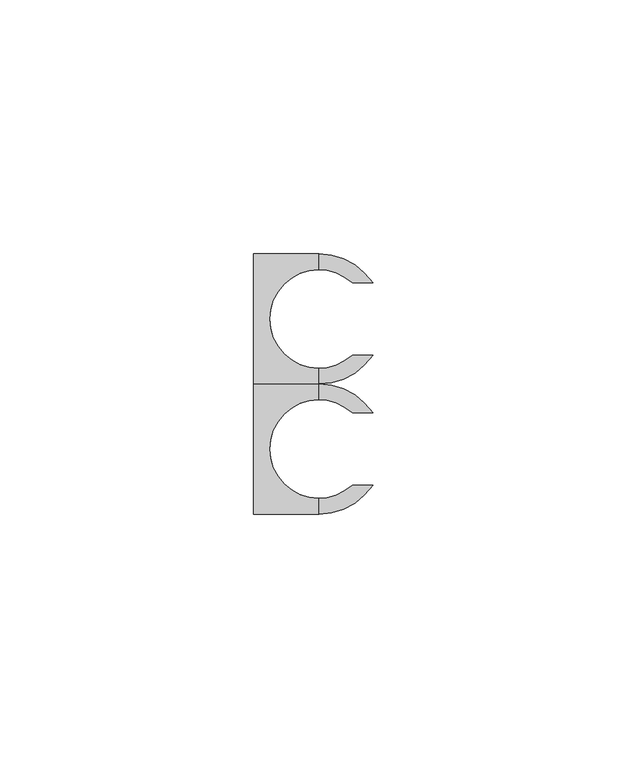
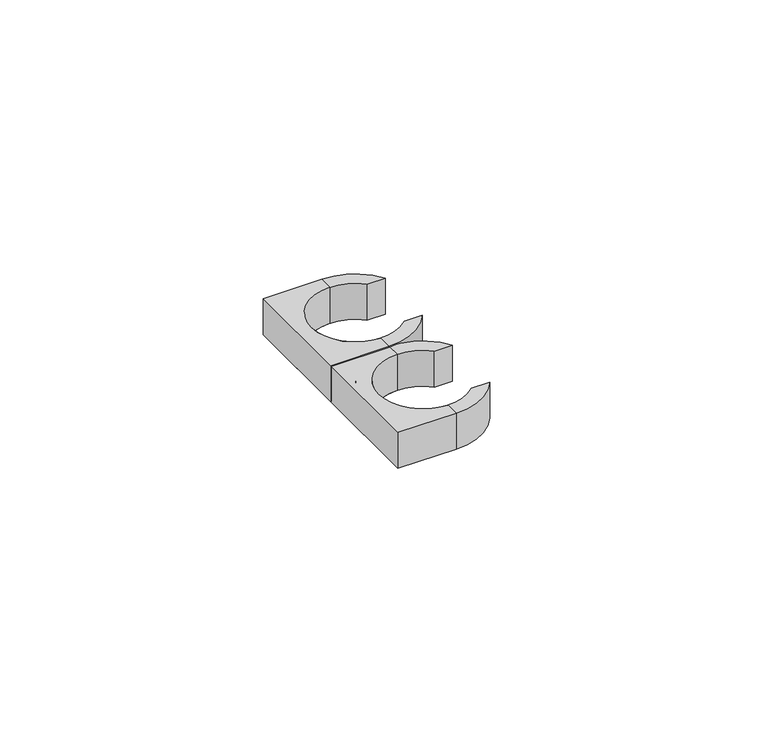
"""IFC4 building model written with IfcOpenShell, lengths in millimetres: valve geometry, EGB_VASEN_ PPR_Abrazadera doble : Abrazadera doble."""

from ifc_helpers import new_model, si_unit, point, frame_2d, origin, origin_with_axes, origin_2d, place, context, project, spatial, polyline, circle_curve, trimmed, segment, composite_curve, outline, extrude, source, transform, mapped, element, save


def valve_6dc34633(model_context):
    return source(origin(), model_context, "Body", "SweptSolid", [
        extrude(outline(composite_curve([segment(polyline([(0.0, 12.8), (-12.8, 12.8), (-12.8, 38.4), (0.0, 38.4), (0.0, 35.3)]), True, "CONTINUOUS"), segment(trimmed(circle_curve(frame_2d((0.0, 25.6)), 9.7), [point((0.0, 35.3))], [point((-9.7, 25.6))], True, "CARTESIAN"), True, "CONTINUOUS"), segment(trimmed(circle_curve(frame_2d((0.0, 25.6)), 9.7), [point((-9.7, 25.6))], [point((0.0, 15.9))], True, "CARTESIAN"), True, "CONTINUOUS"), segment(polyline([(0.0, 15.9), (0.0, 12.8)]), True, "CONTINUOUS")], self_intersect=False)), origin_with_axes(), (0.0, 0.0, 1.0), 8.35),
        extrude(outline(composite_curve([segment(trimmed(circle_curve(frame_2d((0.0, 25.6)), 12.8), [point((-12.8, 25.6))], [point((10.6503521, 32.7))], False, "CARTESIAN"), True, "CONTINUOUS"), segment(polyline([(10.6503521, 32.7), (6.6090847, 32.7)]), True, "CONTINUOUS"), segment(trimmed(circle_curve(frame_2d((0.0, 25.6)), 9.7), [point((6.6090847, 32.7))], [point((-9.7, 25.6))], True, "CARTESIAN"), True, "CONTINUOUS"), segment(trimmed(circle_curve(frame_2d((0.0, 25.6)), 9.7), [point((-9.7, 25.6))], [point((6.6090847, 18.5))], True, "CARTESIAN"), True, "CONTINUOUS"), segment(polyline([(6.6090847, 18.5), (10.6503521, 18.5)]), True, "CONTINUOUS"), segment(trimmed(circle_curve(frame_2d((0.0, 25.6)), 12.8), [point((10.6503521, 18.5))], [point((-12.8, 25.6))], False, "CARTESIAN"), True, "CONTINUOUS")], self_intersect=False)), origin_with_axes(), (0.0, 0.0, 1.0), 8.35),
        extrude(outline(composite_curve([segment(polyline([(0.0, -12.8), (-12.8, -12.8), (-12.8, 12.8), (0.0, 12.8), (0.0, 9.7)]), True, "CONTINUOUS"), segment(trimmed(circle_curve(origin_2d(), 9.7), [point((0.0, 9.7))], [point((-9.7, 0.0))], True, "CARTESIAN"), True, "CONTINUOUS"), segment(trimmed(circle_curve(origin_2d(), 9.7), [point((-9.7, 0.0))], [point((0.0, -9.7))], True, "CARTESIAN"), True, "CONTINUOUS"), segment(polyline([(0.0, -9.7), (0.0, -12.8)]), True, "CONTINUOUS")], self_intersect=False)), origin_with_axes(), (0.0, 0.0, 1.0), 8.35),
        extrude(outline(composite_curve([segment(trimmed(circle_curve(origin_2d(), 12.8), [point((-12.8, 0.0))], [point((10.6503521, 7.1))], False, "CARTESIAN"), True, "CONTINUOUS"), segment(polyline([(10.6503521, 7.1), (6.6090847, 7.1)]), True, "CONTINUOUS"), segment(trimmed(circle_curve(origin_2d(), 9.7), [point((6.6090847, 7.1))], [point((-9.7, 0.0))], True, "CARTESIAN"), True, "CONTINUOUS"), segment(trimmed(circle_curve(origin_2d(), 9.7), [point((-9.7, 0.0))], [point((6.6090847, -7.1))], True, "CARTESIAN"), True, "CONTINUOUS"), segment(polyline([(6.6090847, -7.1), (10.6503521, -7.1)]), True, "CONTINUOUS"), segment(trimmed(circle_curve(origin_2d(), 12.8), [point((10.6503521, -7.1))], [point((-12.8, 0.0))], False, "CARTESIAN"), True, "CONTINUOUS")], self_intersect=False)), origin_with_axes(), (0.0, 0.0, 1.0), 8.35),
    ])


if __name__ == "__main__":
    model = new_model("IFC4")
    model_context = context("Model", 3, world=origin())
    ifc_project = project(units=[si_unit("LENGTHUNIT", "METRE", prefix="MILLI")], contexts=[model_context])
    site = spatial("IfcSite", under=ifc_project)
    building = spatial("IfcBuilding", under=site)
    placement = place(None, origin())
    valve_shape = valve_6dc34633(model_context)
    element("IfcValve", 1, ObjectType="EGB_VASEN_ PPR_Abrazadera doble : Abrazadera doble", at=placement, inside=building, context=model_context, shape_type="MappedRepresentation", body=[
        mapped(valve_shape, transform((0.0, 0.0, 0.0), x_axis=(1.0, 0.0, 0.0), y_axis=(0.0, 1.0, 0.0), z_axis=(0.0, 0.0, 1.0))),
    ])
    save(model, "model.ifc")
